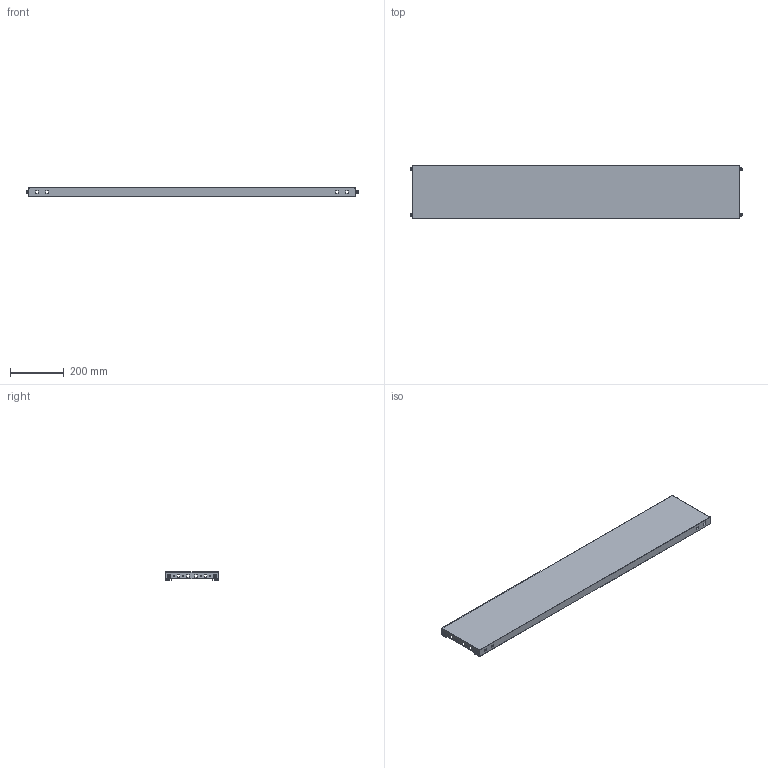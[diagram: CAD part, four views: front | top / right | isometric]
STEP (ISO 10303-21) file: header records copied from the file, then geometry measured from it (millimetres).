
FILE_DESCRIPTION(('Open CASCADE Model'),'2;1');
FILE_NAME('Open CASCADE Shape Model','2025-02-07T17:53:42',('Author'),( 'Open CASCADE'),'Open CASCADE STEP processor 7.8','Open CASCADE 7.8' ,'Unknown');
FILE_SCHEMA(('AUTOMOTIVE_DESIGN { 1 0 10303 214 1 1 1 1 }'));
Length unit declared in the file: millimetre
Products named in the file (5): Compound1; Solid1; Solid2; Solid3; Solid4
Assembly tree (13 placements, depth 2):
  Compound1
    Solid1
    Solid2  x4
    Solid3  x4
    Solid4  x4
Bounding box: 1236.2 x 200 x 30 mm (x, y, z)
Volume: 558234 mm3; surface area: 752936.4 mm2
Topology: 13 solids, 13 shells, 812 faces, 2286 edges, 1488 vertices
Faces by surface type: plane 402, cylinder 346, cone 32, bspline 16, torus 16
Full cylindrical faces by diameter (mm): 5.5 x8, 6.5 x98
Entity records: 27069 total; most frequent: CARTESIAN_POINT 16507, ORIENTED_EDGE 2172, DIRECTION 2048, EDGE_CURVE 1086, VERTEX_POINT 717, AXIS2_PLACEMENT_3D 707, FACE_BOUND 637, EDGE_LOOP 637
